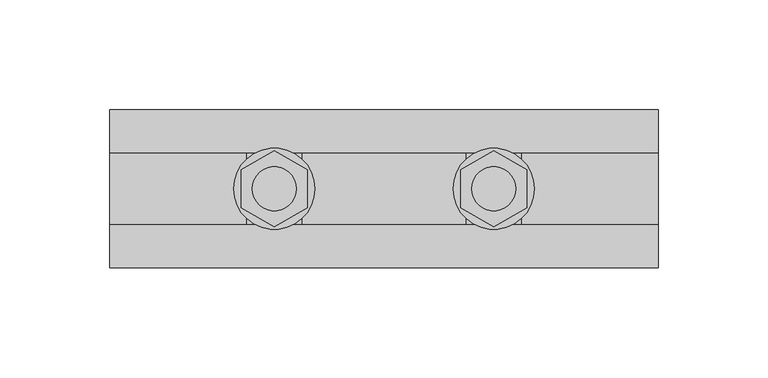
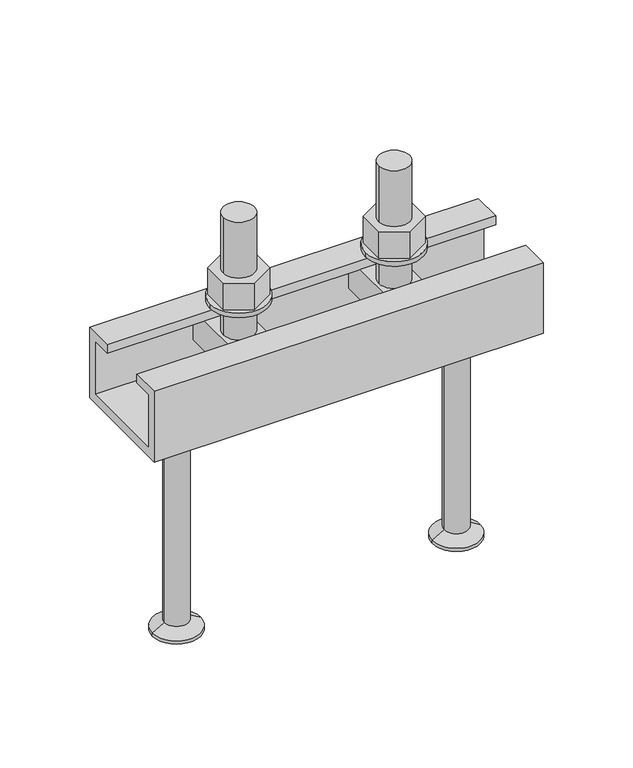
"""IFC4 building model written with IfcOpenShell, lengths in millimetres: fastener geometry, JTA-K JORDAHL® AnchorChannels : JTA-K L=250 mm."""

from ifc_helpers import new_model, si_unit, point, frame, frame_2d, origin, place, context, project, spatial, polyline, circle_curve, trimmed, segment, composite_curve, outline, extrude, source, transform, mapped, element, save
from ifc_brep_helpers import plane_surface, cylinder_surface, revolved_surface, advanced_brep


def fastener_5901f516(model_context):
    return source(origin(), model_context, "Body", "SolidModel", [
        extrude(outline(polyline([(175.0, -17.3205081), (160.0, -8.660254), (160.0, 8.660254), (175.0, 17.3205081), (190.0, 8.660254), (190.0, -8.660254), (175.0, -17.3205081)]), holes=[composite_curve([segment(trimmed(circle_curve(frame_2d((175.0, 0.0)), 10.0), [point((165.0, 0.0))], [point((185.0, 0.0))], True, "CARTESIAN"), True, "CONTINUOUS"), segment(trimmed(circle_curve(frame_2d((175.0, 0.0)), 10.0), [point((185.0, 0.0))], [point((165.0, 0.0))], True, "CARTESIAN"), True, "CONTINUOUS")], self_intersect=False)]), frame((0.0, 0.0, 18.0), z_axis=(0.0, 0.0, 1.0), x_axis=(1.0, 0.0, 0.0)), (0.0, 0.0, 1.0), 18.0),
        extrude(outline(composite_curve([segment(trimmed(circle_curve(frame_2d((175.0, 0.0)), 18.5), [point((156.5, 0.0))], [point((193.5, 0.0))], False, "CARTESIAN"), True, "CONTINUOUS"), segment(trimmed(circle_curve(frame_2d((175.0, 0.0)), 18.5), [point((193.5, 0.0))], [point((156.5, 0.0))], False, "CARTESIAN"), True, "CONTINUOUS")], self_intersect=False), holes=[composite_curve([segment(trimmed(circle_curve(frame_2d((175.0, 0.0)), 10.5), [point((164.5, 0.0))], [point((185.5, 0.0))], True, "CARTESIAN"), True, "CONTINUOUS"), segment(trimmed(circle_curve(frame_2d((175.0, 0.0)), 10.5), [point((185.5, 0.0))], [point((164.5, 0.0))], True, "CARTESIAN"), True, "CONTINUOUS")], self_intersect=False)]), frame((0.0, 0.0, 15.0), z_axis=(0.0, 0.0, 1.0), x_axis=(1.0, 0.0, 0.0)), (0.0, 0.0, 1.0), 3.0),
        extrude(outline(polyline([(75.0, -17.3205081), (60.0, -8.660254), (60.0, 8.660254), (75.0, 17.3205081), (90.0, 8.660254), (90.0, -8.660254), (75.0, -17.3205081)]), holes=[composite_curve([segment(trimmed(circle_curve(frame_2d((75.0, 0.0)), 10.0), [point((65.0, 0.0))], [point((85.0, 0.0))], True, "CARTESIAN"), True, "CONTINUOUS"), segment(trimmed(circle_curve(frame_2d((75.0, 0.0)), 10.0), [point((85.0, 0.0))], [point((65.0, 0.0))], True, "CARTESIAN"), True, "CONTINUOUS")], self_intersect=False)]), frame((0.0, 0.0, 18.0), z_axis=(0.0, 0.0, 1.0), x_axis=(1.0, 0.0, 0.0)), (0.0, 0.0, 1.0), 18.0),
        extrude(outline(composite_curve([segment(trimmed(circle_curve(frame_2d((75.0, 0.0)), 18.5), [point((56.5, 0.0))], [point((93.5, 0.0))], False, "CARTESIAN"), True, "CONTINUOUS"), segment(trimmed(circle_curve(frame_2d((75.0, 0.0)), 18.5), [point((93.5, 0.0))], [point((56.5, 0.0))], False, "CARTESIAN"), True, "CONTINUOUS")], self_intersect=False), holes=[composite_curve([segment(trimmed(circle_curve(frame_2d((75.0, 0.0)), 10.5), [point((64.5, 0.0))], [point((85.5, 0.0))], True, "CARTESIAN"), True, "CONTINUOUS"), segment(trimmed(circle_curve(frame_2d((75.0, 0.0)), 10.5), [point((85.5, 0.0))], [point((64.5, 0.0))], True, "CARTESIAN"), True, "CONTINUOUS")], self_intersect=False)]), frame((0.0, 0.0, 15.0), z_axis=(0.0, 0.0, 1.0), x_axis=(1.0, 0.0, 0.0)), (0.0, 0.0, 1.0), 3.0),
        advanced_brep(
        [(187.5, -29.0, -6.0), (187.5, -29.0, -26.0), (187.5, 29.0, -26.0), (187.5, 29.0, -6.0), (162.5, -29.0, -6.0), (162.5, 29.0, -6.0), (162.5, 29.0, -26.0), (162.5, -29.0, -26.0), (185.0, 0.0, -6.0), (165.0, 0.0, -6.0), (165.0, 0.0, 74.0), (185.0, 0.0, 74.0)],
        [
            (0, 1),
            (1, 2),
            (2, 3),
            (3, 0),
            (4, 5),
            (5, 6),
            (6, 7),
            (7, 4),
            (3, 5),
            (4, 0),
            (8, 9, circle_curve(frame((175.0, 0.0, -6.0), z_axis=(0.0, 0.0, -1.0), x_axis=(1.0, 0.0, 0.0)), 10.0)),
            (9, 8, circle_curve(frame((175.0, 0.0, -6.0), z_axis=(0.0, 0.0, -1.0), x_axis=(1.0, 0.0, 0.0)), 10.0)),
            (2, 6),
            (1, 7),
            (10, 11, circle_curve(frame((175.0, 0.0, 74.0), z_axis=(0.0, 0.0, 1.0), x_axis=(1.0, 0.0, 0.0)), 10.0)),
            (11, 10, circle_curve(frame((175.0, 0.0, 74.0), z_axis=(0.0, 0.0, 1.0), x_axis=(1.0, 0.0, 0.0)), 10.0)),
            (11, 8),
            (9, 10),
        ],
        [
            plane_surface(frame((187.5, 29.0, -6.0), z_axis=(1.0, 0.0, 0.0), x_axis=(0.0, 1.0, 0.0))),
            plane_surface(frame((162.5, 29.0, -6.0), z_axis=(-1.0, 0.0, 0.0), x_axis=(0.0, -1.0, 0.0))),
            plane_surface(frame((187.5, -29.0, -6.0), z_axis=(0.0, 0.0, 1.0), x_axis=(-1.0, 0.0, 0.0))),
            plane_surface(frame((187.5, 29.0, -6.0), z_axis=(0.0, 1.0, 0.0), x_axis=(-1.0, 0.0, 0.0))),
            plane_surface(frame((187.5, 29.0, -26.0), z_axis=(0.0, 0.0, -1.0), x_axis=(-1.0, 0.0, 0.0))),
            plane_surface(frame((187.5, -29.0, -26.0), z_axis=(0.0, -1.0, 0.0), x_axis=(-1.0, 0.0, 0.0))),
            plane_surface(frame((185.0, 0.0, 74.0), z_axis=(0.0, 0.0, 1.0), x_axis=(0.0, -1.0, 0.0))),
            cylinder_surface(frame((175.0, 0.0, -6.0), z_axis=(0.0, 0.0, 1.0), x_axis=(1.0, 0.0, 0.0)), 10.0),
        ],
        [
            (0, [[1, 2, 3, 4]]),
            (1, [[5, 6, 7, 8]]),
            (2, [[9, -5, 10, -4], [11, 12]]),
            (3, [[13, -6, -9, -3]]),
            (4, [[14, -7, -13, -2]]),
            (5, [[-10, -8, -14, -1]]),
            (6, [[15, 16]]),
            (7, [[17, -12, 18, -16]]),
            (7, [[-18, -11, -17, -15]]),
        ],
    ),
        advanced_brep(
        [(87.5, -29.0, -6.0), (87.5, -29.0, -26.0), (87.5, 29.0, -26.0), (87.5, 29.0, -6.0), (62.5, -29.0, -6.0), (62.5, 29.0, -6.0), (62.5, 29.0, -26.0), (62.5, -29.0, -26.0), (85.0, 0.0, -6.0), (65.0, 0.0, -6.0), (65.0, 0.0, 74.0), (85.0, 0.0, 74.0)],
        [
            (0, 1),
            (1, 2),
            (2, 3),
            (3, 0),
            (4, 5),
            (5, 6),
            (6, 7),
            (7, 4),
            (3, 5),
            (4, 0),
            (8, 9, circle_curve(frame((75.0, 0.0, -6.0), z_axis=(0.0, 0.0, -1.0), x_axis=(1.0, 0.0, 0.0)), 10.0)),
            (9, 8, circle_curve(frame((75.0, 0.0, -6.0), z_axis=(0.0, 0.0, -1.0), x_axis=(1.0, 0.0, 0.0)), 10.0)),
            (2, 6),
            (1, 7),
            (10, 11, circle_curve(frame((75.0, 0.0, 74.0), z_axis=(0.0, 0.0, 1.0), x_axis=(1.0, 0.0, 0.0)), 10.0)),
            (11, 10, circle_curve(frame((75.0, 0.0, 74.0), z_axis=(0.0, 0.0, 1.0), x_axis=(1.0, 0.0, 0.0)), 10.0)),
            (11, 8),
            (9, 10),
        ],
        [
            plane_surface(frame((87.5, 29.0, -6.0), z_axis=(1.0, 0.0, 0.0), x_axis=(0.0, 1.0, 0.0))),
            plane_surface(frame((62.5, 29.0, -6.0), z_axis=(-1.0, 0.0, 0.0), x_axis=(0.0, -1.0, 0.0))),
            plane_surface(frame((87.5, -29.0, -6.0), z_axis=(0.0, 0.0, 1.0), x_axis=(-1.0, 0.0, 0.0))),
            plane_surface(frame((87.5, 29.0, -6.0), z_axis=(0.0, 1.0, 0.0), x_axis=(-1.0, 0.0, 0.0))),
            plane_surface(frame((87.5, 29.0, -26.0), z_axis=(0.0, 0.0, -1.0), x_axis=(-1.0, 0.0, 0.0))),
            plane_surface(frame((87.5, -29.0, -26.0), z_axis=(0.0, -1.0, 0.0), x_axis=(-1.0, 0.0, 0.0))),
            plane_surface(frame((85.0, 0.0, 74.0), z_axis=(0.0, 0.0, 1.0), x_axis=(0.0, -1.0, 0.0))),
            cylinder_surface(frame((75.0, 0.0, -6.0), z_axis=(0.0, 0.0, 1.0), x_axis=(1.0, 0.0, 0.0)), 10.0),
        ],
        [
            (0, [[1, 2, 3, 4]]),
            (1, [[5, 6, 7, 8]]),
            (2, [[9, -5, 10, -4], [11, 12]]),
            (3, [[13, -6, -9, -3]]),
            (4, [[14, -7, -13, -2]]),
            (5, [[-10, -8, -14, -1]]),
            (6, [[15, 16]]),
            (7, [[17, -12, 18, -16]]),
            (7, [[-18, -11, -17, -15]]),
        ],
    ),
        advanced_brep(
        [(215.0, 0.0, -48.0), (192.0, 0.0, -48.0), (238.0, 0.0, -48.0), (199.5, 0.0, -195.0), (215.0, 0.0, -195.0), (230.5, 0.0, -195.0), (199.5, 0.0, -193.0), (230.5, 0.0, -193.0), (207.2, 0.0, -188.5544029), (222.8, 0.0, -188.5544029), (207.2, 0.0, -52.0), (222.8, 0.0, -52.0)],
        [
            (0, 1),
            (1, 2, circle_curve(frame((215.0, 0.0, -48.0), z_axis=(0.0, 0.0, 1.0), x_axis=(1.0, 0.0, 0.0)), 23.0)),
            (2, 0),
            (2, 1, circle_curve(frame((215.0, 0.0, -48.0), z_axis=(0.0, 0.0, 1.0), x_axis=(1.0, 0.0, 0.0)), 23.0)),
            (3, 4),
            (4, 5),
            (5, 3, circle_curve(frame((215.0, 0.0, -195.0), z_axis=(0.0, 0.0, -1.0), x_axis=(1.0, 0.0, 0.0)), 15.5)),
            (3, 5, circle_curve(frame((215.0, 0.0, -195.0), z_axis=(0.0, 0.0, -1.0), x_axis=(1.0, 0.0, 0.0)), 15.5)),
            (6, 3),
            (5, 7),
            (7, 6, circle_curve(frame((215.0, 0.0, -193.0), z_axis=(0.0, 0.0, -1.0), x_axis=(1.0, 0.0, 0.0)), 15.5)),
            (6, 7, circle_curve(frame((215.0, 0.0, -193.0), z_axis=(0.0, 0.0, -1.0), x_axis=(1.0, 0.0, 0.0)), 15.5)),
            (8, 6),
            (7, 9),
            (9, 8, circle_curve(frame((215.0, 0.0, -188.5544029), z_axis=(0.0, 0.0, -1.0), x_axis=(1.0, 0.0, 0.0)), 7.8)),
            (8, 9, circle_curve(frame((215.0, 0.0, -188.5544029), z_axis=(0.0, 0.0, -1.0), x_axis=(1.0, 0.0, 0.0)), 7.8)),
            (10, 8),
            (9, 11),
            (11, 10, circle_curve(frame((215.0, 0.0, -52.0), z_axis=(0.0, 0.0, -1.0), x_axis=(1.0, 0.0, 0.0)), 7.8)),
            (10, 11, circle_curve(frame((215.0, 0.0, -52.0), z_axis=(0.0, 0.0, -1.0), x_axis=(1.0, 0.0, 0.0)), 7.8)),
            (1, 10),
            (11, 2),
        ],
        [
            plane_surface(frame((215.0, 0.0, -48.0), z_axis=(0.0, 0.0, 1.0), x_axis=(1.0, 0.0, 0.0))),
            plane_surface(frame((215.0, 0.0, -195.0), z_axis=(0.0, 0.0, -1.0), x_axis=(1.0, 0.0, 0.0))),
            cylinder_surface(frame((215.0, 0.0, 2361.3150031), z_axis=(0.0, 0.0, 1.0), x_axis=(1.0, 0.0, 0.0)), 15.5),
            revolved_surface(polyline([(230.5, 0.0, -193.0), (222.8, 0.0, -188.5544029)]), (215.0, 0.0, 2361.3150031), (0.0, 0.0, 1.0)),
            cylinder_surface(frame((215.0, 0.0, 2361.3150031), z_axis=(0.0, 0.0, 1.0), x_axis=(1.0, 0.0, 0.0)), 7.8),
            revolved_surface(polyline([(222.8, 0.0, -52.0), (238.0, 0.0, -48.0)]), (215.0, 0.0, 2361.3150031), (0.0, 0.0, 1.0)),
        ],
        [
            (0, [[1, 2, 3]]),
            (0, [[-3, 4, -1]]),
            (1, [[5, 6, 7]]),
            (1, [[-6, -5, 8]]),
            (2, [[9, -7, 10, 11]]),
            (2, [[-10, -8, -9, 12]]),
            (3, [[13, -11, 14, 15]]),
            (3, [[-14, -12, -13, 16]]),
            (4, [[17, -15, 18, 19]]),
            (4, [[-18, -16, -17, 20]]),
            (5, [[21, -19, 22, -2]]),
            (5, [[-22, -20, -21, -4]]),
        ],
    ),
        advanced_brep(
        [(35.0, 0.0, -48.0), (12.0, 0.0, -48.0), (58.0, 0.0, -48.0), (19.5, 0.0, -195.0), (35.0, 0.0, -195.0), (50.5, 0.0, -195.0), (19.5, 0.0, -193.0), (50.5, 0.0, -193.0), (27.2, 0.0, -188.5544029), (42.8, 0.0, -188.5544029), (27.2, 0.0, -52.0), (42.8, 0.0, -52.0)],
        [
            (0, 1),
            (1, 2, circle_curve(frame((35.0, 0.0, -48.0), z_axis=(0.0, 0.0, 1.0), x_axis=(1.0, 0.0, 0.0)), 23.0)),
            (2, 0),
            (2, 1, circle_curve(frame((35.0, 0.0, -48.0), z_axis=(0.0, 0.0, 1.0), x_axis=(1.0, 0.0, 0.0)), 23.0)),
            (3, 4),
            (4, 5),
            (5, 3, circle_curve(frame((35.0, 0.0, -195.0), z_axis=(0.0, 0.0, -1.0), x_axis=(1.0, 0.0, 0.0)), 15.5)),
            (3, 5, circle_curve(frame((35.0, 0.0, -195.0), z_axis=(0.0, 0.0, -1.0), x_axis=(1.0, 0.0, 0.0)), 15.5)),
            (6, 3),
            (5, 7),
            (7, 6, circle_curve(frame((35.0, 0.0, -193.0), z_axis=(0.0, 0.0, -1.0), x_axis=(1.0, 0.0, 0.0)), 15.5)),
            (6, 7, circle_curve(frame((35.0, 0.0, -193.0), z_axis=(0.0, 0.0, -1.0), x_axis=(1.0, 0.0, 0.0)), 15.5)),
            (8, 6),
            (7, 9),
            (9, 8, circle_curve(frame((35.0, 0.0, -188.5544029), z_axis=(0.0, 0.0, -1.0), x_axis=(1.0, 0.0, 0.0)), 7.8)),
            (8, 9, circle_curve(frame((35.0, 0.0, -188.5544029), z_axis=(0.0, 0.0, -1.0), x_axis=(1.0, 0.0, 0.0)), 7.8)),
            (10, 8),
            (9, 11),
            (11, 10, circle_curve(frame((35.0, 0.0, -52.0), z_axis=(0.0, 0.0, -1.0), x_axis=(1.0, 0.0, 0.0)), 7.8)),
            (10, 11, circle_curve(frame((35.0, 0.0, -52.0), z_axis=(0.0, 0.0, -1.0), x_axis=(1.0, 0.0, 0.0)), 7.8)),
            (1, 10),
            (11, 2),
        ],
        [
            plane_surface(frame((35.0, 0.0, -48.0), z_axis=(0.0, 0.0, 1.0), x_axis=(1.0, 0.0, 0.0))),
            plane_surface(frame((35.0, 0.0, -195.0), z_axis=(0.0, 0.0, -1.0), x_axis=(1.0, 0.0, 0.0))),
            cylinder_surface(frame((35.0, 0.0, 2361.3150031), z_axis=(0.0, 0.0, 1.0), x_axis=(1.0, 0.0, 0.0)), 15.5),
            revolved_surface(polyline([(50.5, 0.0, -193.0), (42.8, 0.0, -188.5544029)]), (35.0, 0.0, 2361.3150031), (0.0, 0.0, 1.0)),
            cylinder_surface(frame((35.0, 0.0, 2361.3150031), z_axis=(0.0, 0.0, 1.0), x_axis=(1.0, 0.0, 0.0)), 7.8),
            revolved_surface(polyline([(42.8, 0.0, -52.0), (58.0, 0.0, -48.0)]), (35.0, 0.0, 2361.3150031), (0.0, 0.0, 1.0)),
        ],
        [
            (0, [[1, 2, 3]]),
            (0, [[-3, 4, -1]]),
            (1, [[5, 6, 7]]),
            (1, [[-6, -5, 8]]),
            (2, [[9, -7, 10, 11]]),
            (2, [[-10, -8, -9, 12]]),
            (3, [[13, -11, 14, 15]]),
            (3, [[-14, -12, -13, 16]]),
            (4, [[17, -15, 18, 19]]),
            (4, [[-18, -16, -17, 20]]),
            (5, [[21, -19, 22, -2]]),
            (5, [[-22, -20, -21, -4]]),
        ],
    ),
        extrude(outline(polyline([(-36.0, 0.0), (-16.5, 0.0), (-16.5, -6.0), (-30.0, -6.0), (-30.0, -42.0), (30.0, -42.0), (30.0, -6.0), (16.5, -6.0), (16.5, 0.0), (36.0, 0.0), (36.0, -48.0), (-36.0, -48.0), (-36.0, 0.0)])), frame((0.0, 0.0, 0.0), z_axis=(1.0, 0.0, 0.0), x_axis=(0.0, 1.0, 0.0)), (0.0, 0.0, 1.0), 250.0),
    ])


if __name__ == "__main__":
    model = new_model("IFC4")
    model_context = context("Model", 3, world=origin())
    ifc_project = project(units=[si_unit("LENGTHUNIT", "METRE", prefix="MILLI")], contexts=[model_context])
    site = spatial("IfcSite", under=ifc_project)
    building = spatial("IfcBuilding", under=site)
    placement = place(None, origin())
    fastener_shape = fastener_5901f516(model_context)
    element("IfcFastener", 1, ObjectType="JTA-K JORDAHL® AnchorChannels : JTA-K L=250 mm", at=placement, inside=building, context=model_context, shape_type="MappedRepresentation", body=[
        mapped(fastener_shape, transform((0.0, 0.0, 0.0), x_axis=(1.0, 0.0, 0.0), y_axis=(0.0, 1.0, 0.0), z_axis=(0.0, 0.0, 1.0))),
    ])
    save(model, "model.ifc")
